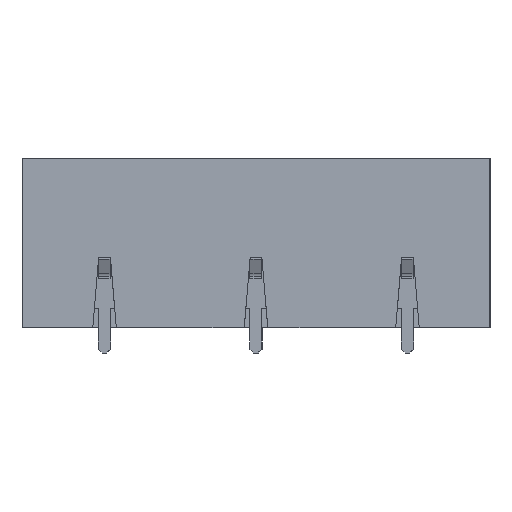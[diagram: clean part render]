
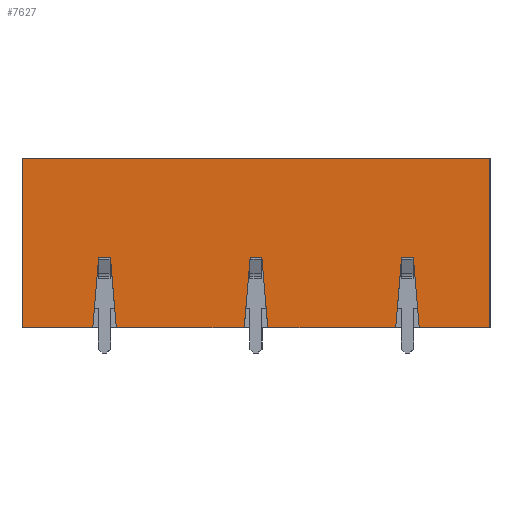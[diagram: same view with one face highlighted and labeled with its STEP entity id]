
A CAD part, left-side view. The second image highlights one B-rep face of the part: STEP entity #7627.
In plain terms, the highlighted planar face has unit normal (-1, 0, 0).
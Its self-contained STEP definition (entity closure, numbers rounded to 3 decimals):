
#3540 = VERTEX_POINT('',#3541);
#3541 = CARTESIAN_POINT('',(-38.99,29.815,0.));
#3549 = EDGE_CURVE('',#3540,#3550,#3552,.T.);
#3550 = VERTEX_POINT('',#3551);
#3551 = CARTESIAN_POINT('',(-38.99,29.815,21.54));
#3552 = LINE('',#3553,#3554);
#3553 = CARTESIAN_POINT('',(-38.99,29.815,0.));
#3554 = VECTOR('',#3555,1.);
#3555 = DIRECTION('',(0.,0.,1.));
#3857 = VERTEX_POINT('',#3858);
#3858 = CARTESIAN_POINT('',(-38.99,-29.815,21.54));
#3864 = EDGE_CURVE('',#3865,#3857,#3867,.T.);
#3865 = VERTEX_POINT('',#3866);
#3866 = CARTESIAN_POINT('',(-38.99,-29.815,0.));
#3867 = LINE('',#3868,#3869);
#3868 = CARTESIAN_POINT('',(-38.99,-29.815,0.));
#3869 = VECTOR('',#3870,1.);
#3870 = DIRECTION('',(0.,0.,1.));
#4101 = EDGE_CURVE('',#4102,#4104,#4106,.T.);
#4102 = VERTEX_POINT('',#4103);
#4103 = CARTESIAN_POINT('',(-38.99,-1.5,0.));
#4104 = VERTEX_POINT('',#4105);
#4105 = CARTESIAN_POINT('',(-38.99,-0.75,9.));
#4106 = LINE('',#4107,#4108);
#4107 = CARTESIAN_POINT('',(-38.99,-1.5,0.));
#4108 = VECTOR('',#4109,1.);
#4109 = DIRECTION('',(0.,0.083,0.997));
#4182 = EDGE_CURVE('',#4183,#4185,#4187,.T.);
#4183 = VERTEX_POINT('',#4184);
#4184 = CARTESIAN_POINT('',(-38.99,0.75,9.));
#4185 = VERTEX_POINT('',#4186);
#4186 = CARTESIAN_POINT('',(-38.99,1.5,0.));
#4187 = LINE('',#4188,#4189);
#4188 = CARTESIAN_POINT('',(-38.99,0.75,9.));
#4189 = VECTOR('',#4190,1.);
#4190 = DIRECTION('',(-0.,0.083,-0.997));
#4889 = EDGE_CURVE('',#4890,#4892,#4894,.T.);
#4890 = VERTEX_POINT('',#4891);
#4891 = CARTESIAN_POINT('',(-38.99,20.05,9.));
#4892 = VERTEX_POINT('',#4893);
#4893 = CARTESIAN_POINT('',(-38.99,20.8,0.));
#4894 = LINE('',#4895,#4896);
#4895 = CARTESIAN_POINT('',(-38.99,20.05,9.));
#4896 = VECTOR('',#4897,1.);
#4897 = DIRECTION('',(-0.,0.083,-0.997));
#4929 = EDGE_CURVE('',#4930,#4890,#4932,.T.);
#4930 = VERTEX_POINT('',#4931);
#4931 = CARTESIAN_POINT('',(-38.99,18.55,9.));
#4932 = LINE('',#4933,#4934);
#4933 = CARTESIAN_POINT('',(-38.99,18.55,9.));
#4934 = VECTOR('',#4935,1.);
#4935 = DIRECTION('',(0.,1.,0.));
#4953 = EDGE_CURVE('',#4954,#4930,#4956,.T.);
#4954 = VERTEX_POINT('',#4955);
#4955 = CARTESIAN_POINT('',(-38.99,17.8,0.));
#4956 = LINE('',#4957,#4958);
#4957 = CARTESIAN_POINT('',(-38.99,17.8,0.));
#4958 = VECTOR('',#4959,1.);
#4959 = DIRECTION('',(0.,0.083,0.997));
#5081 = EDGE_CURVE('',#4104,#4183,#5082,.T.);
#5082 = LINE('',#5083,#5084);
#5083 = CARTESIAN_POINT('',(-38.99,-0.75,9.));
#5084 = VECTOR('',#5085,1.);
#5085 = DIRECTION('',(0.,1.,0.));
#5210 = EDGE_CURVE('',#5211,#5213,#5215,.T.);
#5211 = VERTEX_POINT('',#5212);
#5212 = CARTESIAN_POINT('',(-38.99,-18.55,9.));
#5213 = VERTEX_POINT('',#5214);
#5214 = CARTESIAN_POINT('',(-38.99,-17.8,0.));
#5215 = LINE('',#5216,#5217);
#5216 = CARTESIAN_POINT('',(-38.99,-18.55,9.));
#5217 = VECTOR('',#5218,1.);
#5218 = DIRECTION('',(-0.,0.083,-0.997));
#5250 = EDGE_CURVE('',#5251,#5211,#5253,.T.);
#5251 = VERTEX_POINT('',#5252);
#5252 = CARTESIAN_POINT('',(-38.99,-20.05,9.));
#5253 = LINE('',#5254,#5255);
#5254 = CARTESIAN_POINT('',(-38.99,-20.05,9.));
#5255 = VECTOR('',#5256,1.);
#5256 = DIRECTION('',(0.,1.,0.));
#5274 = EDGE_CURVE('',#5275,#5251,#5277,.T.);
#5275 = VERTEX_POINT('',#5276);
#5276 = CARTESIAN_POINT('',(-38.99,-20.8,0.));
#5277 = LINE('',#5278,#5279);
#5278 = CARTESIAN_POINT('',(-38.99,-20.8,0.));
#5279 = VECTOR('',#5280,1.);
#5280 = DIRECTION('',(0.,0.083,0.997));
#5405 = EDGE_CURVE('',#3857,#3550,#5406,.T.);
#5406 = LINE('',#5407,#5408);
#5407 = CARTESIAN_POINT('',(-38.99,-29.815,21.54));
#5408 = VECTOR('',#5409,1.);
#5409 = DIRECTION('',(0.,1.,0.));
#6467 = EDGE_CURVE('',#3865,#5275,#6468,.T.);
#6468 = LINE('',#6469,#6470);
#6469 = CARTESIAN_POINT('',(-38.99,-29.815,0.));
#6470 = VECTOR('',#6471,1.);
#6471 = DIRECTION('',(0.,1.,0.));
#6476 = EDGE_CURVE('',#5213,#4102,#6477,.T.);
#6477 = LINE('',#6478,#6479);
#6478 = CARTESIAN_POINT('',(-38.99,-29.815,0.));
#6479 = VECTOR('',#6480,1.);
#6480 = DIRECTION('',(0.,1.,0.));
#6485 = EDGE_CURVE('',#4185,#4954,#6486,.T.);
#6486 = LINE('',#6487,#6488);
#6487 = CARTESIAN_POINT('',(-38.99,-29.815,0.));
#6488 = VECTOR('',#6489,1.);
#6489 = DIRECTION('',(0.,1.,0.));
#6499 = EDGE_CURVE('',#4892,#3540,#6500,.T.);
#6500 = LINE('',#6501,#6502);
#6501 = CARTESIAN_POINT('',(-38.99,-29.815,0.));
#6502 = VECTOR('',#6503,1.);
#6503 = DIRECTION('',(0.,1.,0.));
#7627 = ADVANCED_FACE('',(#7628),#7646,.T.);
#7628 = FACE_BOUND('',#7629,.T.);
#7629 = EDGE_LOOP('',(#7630,#7631,#7632,#7633,#7634,#7635,#7636,#7637,
    #7638,#7639,#7640,#7641,#7642,#7643,#7644,#7645));
#7630 = ORIENTED_EDGE('',*,*,#6467,.F.);
#7631 = ORIENTED_EDGE('',*,*,#3864,.T.);
#7632 = ORIENTED_EDGE('',*,*,#5405,.T.);
#7633 = ORIENTED_EDGE('',*,*,#3549,.F.);
#7634 = ORIENTED_EDGE('',*,*,#6499,.F.);
#7635 = ORIENTED_EDGE('',*,*,#4889,.F.);
#7636 = ORIENTED_EDGE('',*,*,#4929,.F.);
#7637 = ORIENTED_EDGE('',*,*,#4953,.F.);
#7638 = ORIENTED_EDGE('',*,*,#6485,.F.);
#7639 = ORIENTED_EDGE('',*,*,#4182,.F.);
#7640 = ORIENTED_EDGE('',*,*,#5081,.F.);
#7641 = ORIENTED_EDGE('',*,*,#4101,.F.);
#7642 = ORIENTED_EDGE('',*,*,#6476,.F.);
#7643 = ORIENTED_EDGE('',*,*,#5210,.F.);
#7644 = ORIENTED_EDGE('',*,*,#5250,.F.);
#7645 = ORIENTED_EDGE('',*,*,#5274,.F.);
#7646 = PLANE('',#7647);
#7647 = AXIS2_PLACEMENT_3D('',#7648,#7649,#7650);
#7648 = CARTESIAN_POINT('',(-38.99,-29.815,0.));
#7649 = DIRECTION('',(-1.,0.,0.));
#7650 = DIRECTION('',(0.,1.,0.));
